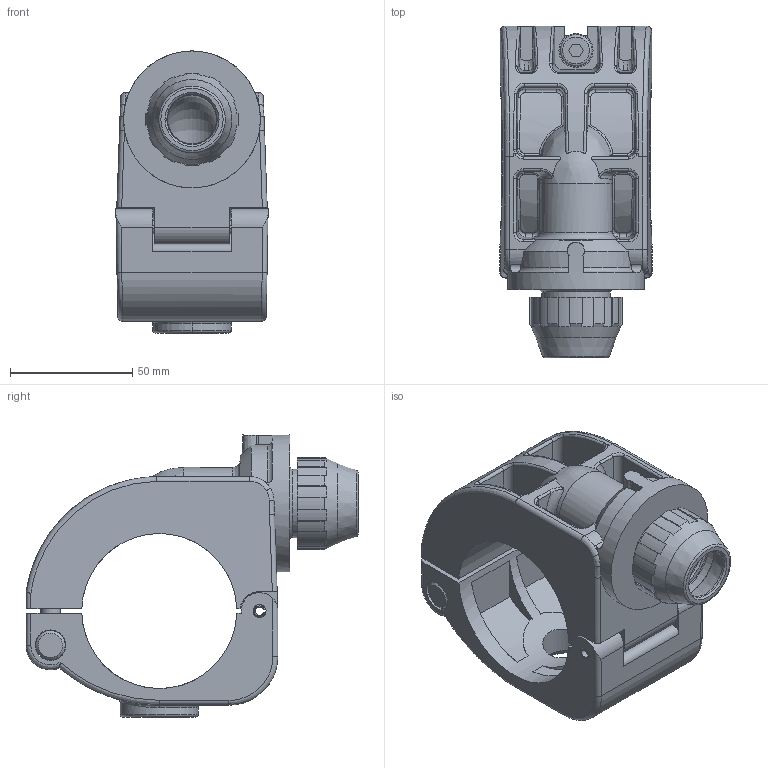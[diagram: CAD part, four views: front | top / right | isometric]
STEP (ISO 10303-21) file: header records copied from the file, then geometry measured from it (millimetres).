
FILE_DESCRIPTION( ( 'STEP AP214' ), '1' );
FILE_NAME( ' ', ' ', ( ' ' ), ( ' ' ), 'PSStep 11.0', 'VISI 17.0', ' ' );
FILE_SCHEMA( ( 'AUTOMOTIVE_DESIGN { 1 0 10303 214 1 1 1 1 }' ) );
Length unit declared in the file: millimetre
Products named in the file (9): 1; 2; 3; 4; 5; 6; 7; 8; 9
Bounding box: 62.29 x 135.77 x 115.35 mm (x, y, z)
Volume: 273436.7 mm3; surface area: 85368.7 mm2
Topology: 9 solids, 9 shells, 397 faces, 1008 edges, 639 vertices
Faces by surface type: cylinder 152, plane 135, bspline 84, torus 14, cone 12
Full cylindrical faces by diameter (mm): 5.3 x2, 5.8 x1, 8 x2, 9 x1, 12 x1, 12.5 x1, 13 x1, 14 x1, 20 x3, 20.5 x1, 20.6 x2, 24.9 x1, 28 x1, 29.568 x1, 29.88 x2, 31 x1, 31.88 x1, 33 x2, 36.149 x1, 56 x1
Entity records: 34034 total; most frequent: CARTESIAN_POINT 21883, ORIENTED_EDGE 1876, DIRECTION 1728, EDGE_CURVE 938, AXIS2_PLACEMENT_3D 681, VERTEX_POINT 621, EDGE_LOOP 483, FACE_OUTER_BOUND 433
